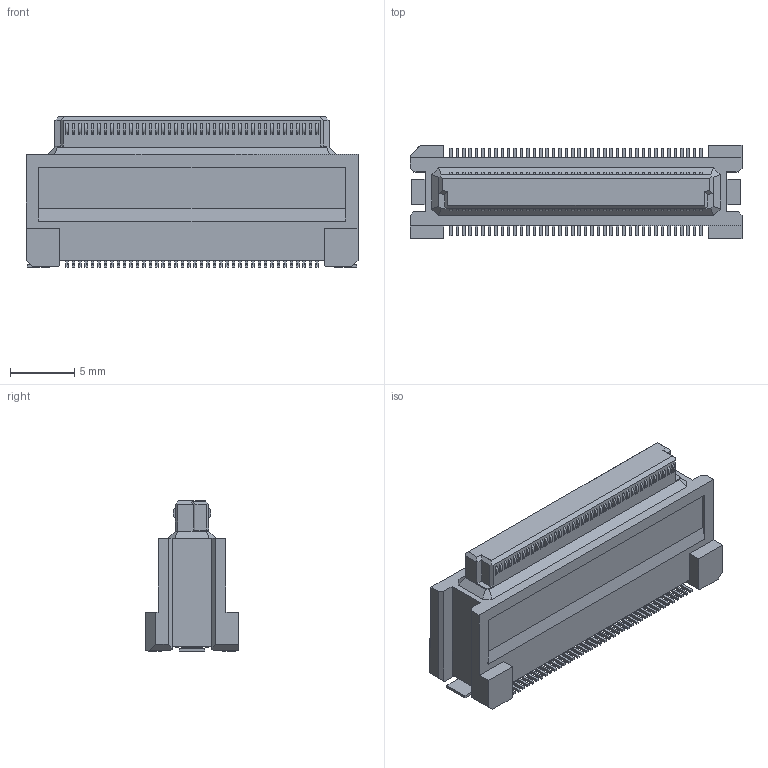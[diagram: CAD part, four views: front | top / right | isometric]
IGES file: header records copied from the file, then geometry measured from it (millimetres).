
Start section: Elysium IGES Interface
Global section: file name: C:\Users\1354\Desktop\DY10-080FS-3.igs; native system: Creo Elements/Direct Modeling 19.0F  14-Feb-2017; preprocessor: Creo Element/Direct IGES_3D V2.2; author: Unknown; organization: Unknown; date: 20171128.093458; units: millimetre
Bounding box: 25.9 x 7.3 x 11.73 mm (x, y, z)
Volume: 1183.5 mm3; surface area: 1160 mm2
Topology: 1 solids, 1 shells, 1190 faces, 3273 edges, 2170 vertices
Faces by surface type: bspline 1190
